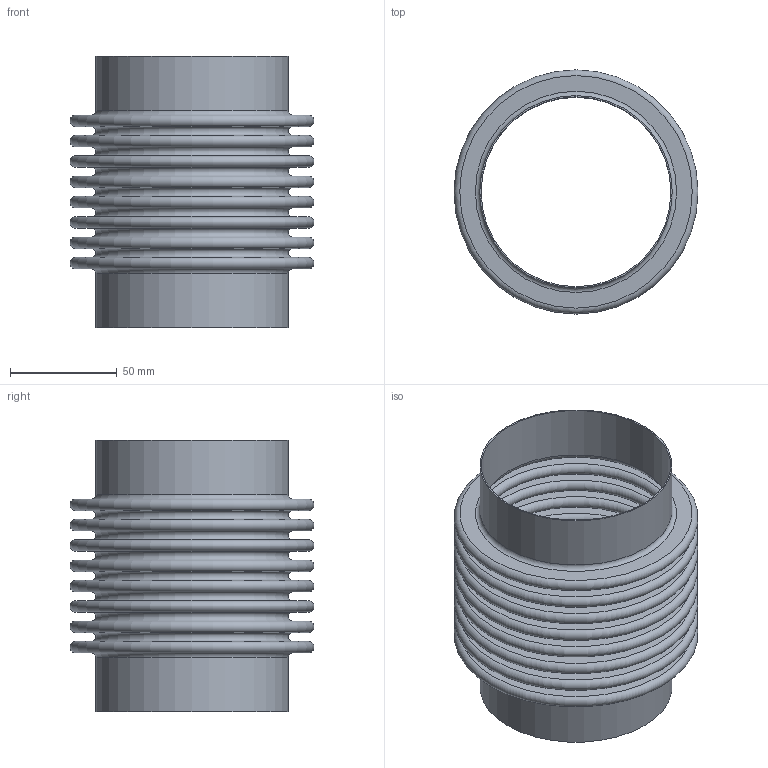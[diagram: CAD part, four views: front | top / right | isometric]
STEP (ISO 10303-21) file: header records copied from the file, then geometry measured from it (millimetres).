
FILE_DESCRIPTION(/* description */ ('STOCK BELLOWS: U.S-3-8-150S, 3.500 I.D., 4.500 O.D., 1 PLY, 24 GA (0.024 THICK), 8 CONS., 0.375 PITCH, 1.000 TANGENT. '),/* implementation_level */ '2;1');
FILE_NAME(/* name */ 'STOCK BELLOW - US-3-8-150S.stp',/* time_stamp */ '2026-07-21T11:59:51-05:00',/* author */ ('KennethB'),/* organization */ (''),/* preprocessor_version */ 'ST-DEVELOPER v20.1',/* originating_system */ 'Autodesk Inventor 2026',/* authorisation */ '');
FILE_SCHEMA (('AUTOMOTIVE_DESIGN { 1 0 10303 214 3 1 1 }'));
Length unit declared in the file: inch
Products named in the file (1): STOCK BELLOW - US-3-8-150S
Bounding box: 114.3 x 114.3 x 127 mm (x, y, z)
Volume: 54811.2 mm3; surface area: 180855.2 mm2
Topology: 3 solids, 3 shells, 76 faces, 114 edges, 77 vertices
Faces by surface type: plane 38, torus 34, cylinder 4
Full cylindrical faces by diameter (mm): 88.9 x2, 90.119 x2
Entity records: 1814 total; most frequent: DIRECTION 378, CARTESIAN_POINT 268, ORIENTED_EDGE 228, AXIS2_PLACEMENT_3D 187, EDGE_LOOP 114, EDGE_CURVE 114, CIRCLE 110, FACE_OUTER_BOUND 76
